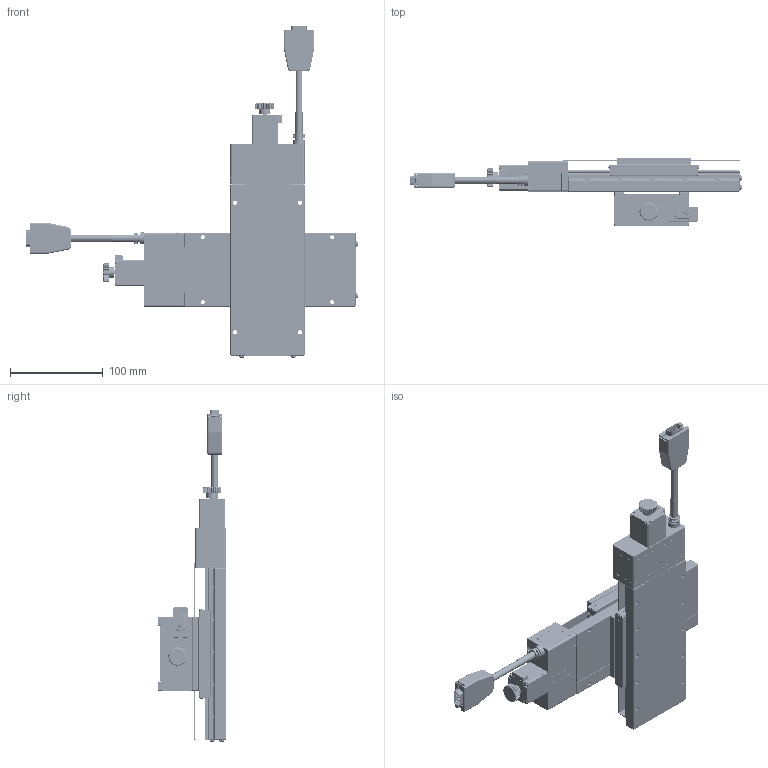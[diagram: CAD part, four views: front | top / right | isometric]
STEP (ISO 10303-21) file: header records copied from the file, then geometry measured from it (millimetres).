
FILE_DESCRIPTION (( 'STEP AP203' ), '1' );
FILE_NAME ('CXC8075-S2?N.STEP', '2023-10-02T02:43:27', ( '' ), ( '' ), 'SwSTEP 2.0', 'SolidWorks 2019', '' );
FILE_SCHEMA (( 'CONFIG_CONTROL_DESIGN' ));
Length unit declared in the file: millimetre
Products named in the file (5): CXC8075-S2?N; Group2^CXC8075-S2?N-1_GMT; CXC8075-S2?N-1; Group1^CXC8075-S2?N-1_GMT; CXN80-1_GMT
Assembly tree (7 placements, depth 3):
  CXC8075-S2?N
    Group1^CXC8075-S2?N-1_GMT
    Group2^CXC8075-S2?N-1_GMT
    CXN80-1_GMT
    CXC8075-S2?N-1
      Group1^CXC8075-S2?N-1_GMT
      Group2^CXC8075-S2?N-1_GMT
      CXN80-1_GMT
Bounding box: 358.25 x 74 x 358.25 mm (x, y, z)
Volume: 142697.1 mm3; surface area: 330687.2 mm2
Topology: 38 solids, 50 shells, 7972 faces, 20606 edges, 12758 vertices
Faces by surface type: plane 3112, cylinder 2456, torus 812, cone 784, bspline 516, sphere 292
Entity records: 134199 total; most frequent: CARTESIAN_POINT 37752, ORIENTED_EDGE 20338, DIRECTION 20156, EDGE_CURVE 10169, AXIS2_PLACEMENT_3D 7659, VERTEX_POINT 6371, VECTOR 4838, LINE 4838
